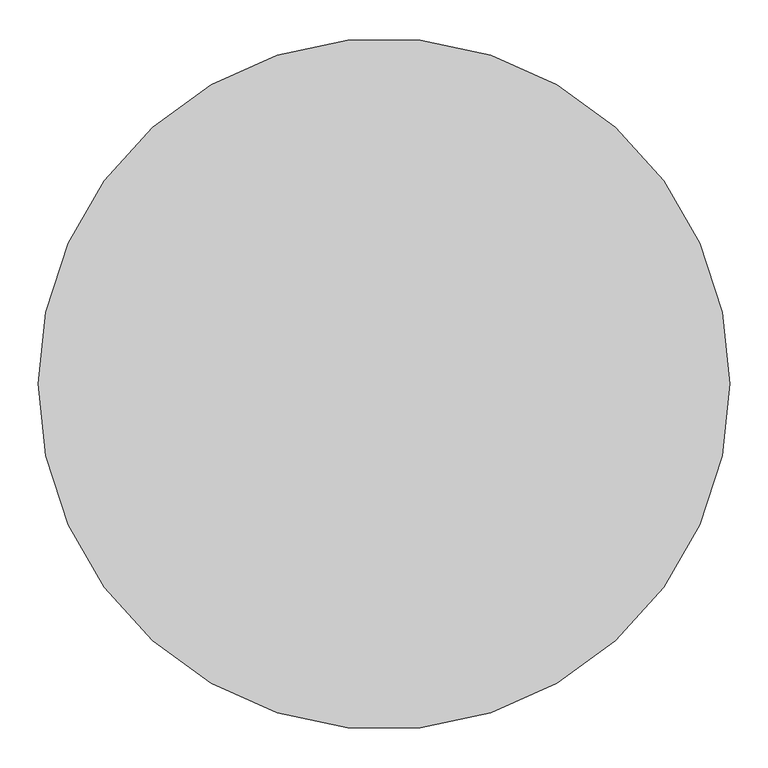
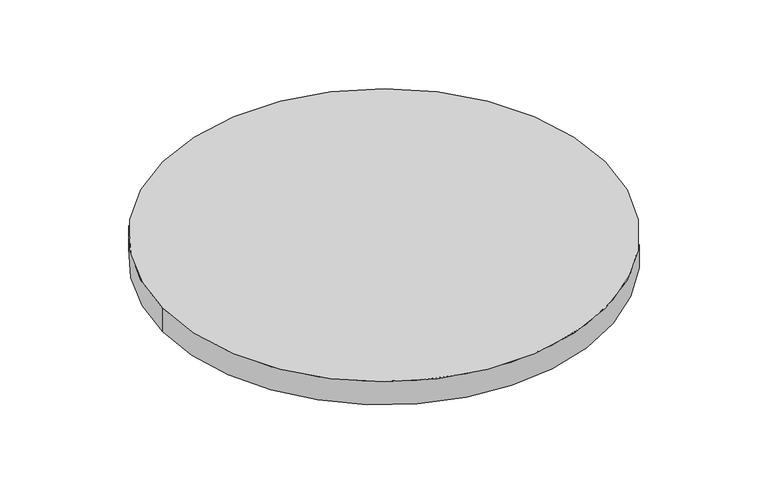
"""IFC4 building model written with IfcOpenShell, lengths in millimetres: proxy geometry, BOLARDO : BOLARDO."""

from ifc_helpers import new_model, si_unit, point, origin, origin_with_axes, origin_2d, place, context, project, spatial, circle_curve, trimmed, segment, composite_curve, outline, extrude, source, transform, mapped, element, save


def generic_models_ee420f2a(model_context):
    return source(origin(), model_context, "Body", "SweptSolid", [
        extrude(outline(composite_curve([segment(trimmed(circle_curve(origin_2d(), 450.0), [point((-450.0, 0.0))], [point((450.0, 0.0))], False, "CARTESIAN"), True, "CONTINUOUS"), segment(trimmed(circle_curve(origin_2d(), 450.0), [point((450.0, 0.0))], [point((-450.0, 0.0))], False, "CARTESIAN"), True, "CONTINUOUS")], self_intersect=False)), origin_with_axes(), (0.0, 0.0, 1.0), 50.0),
    ])


if __name__ == "__main__":
    model = new_model("IFC4")
    model_context = context("Model", 3, world=origin())
    ifc_project = project(units=[si_unit("LENGTHUNIT", "METRE", prefix="MILLI")], contexts=[model_context])
    site = spatial("IfcSite", under=ifc_project)
    building = spatial("IfcBuilding", under=site)
    placement = place(None, origin())
    generic_models_shape = generic_models_ee420f2a(model_context)
    element("IfcBuildingElementProxy", 1, Name="BOLARDO : BOLARDO", ObjectType="BOLARDO : BOLARDO", at=placement, inside=building, context=model_context, shape_type="MappedRepresentation", body=[
        mapped(generic_models_shape, transform((0.0, 0.0, 0.0), x_axis=(1.0, 0.0, 0.0), y_axis=(0.0, 1.0, 0.0), z_axis=(0.0, 0.0, 1.0))),
    ])
    save(model, "model.ifc")
